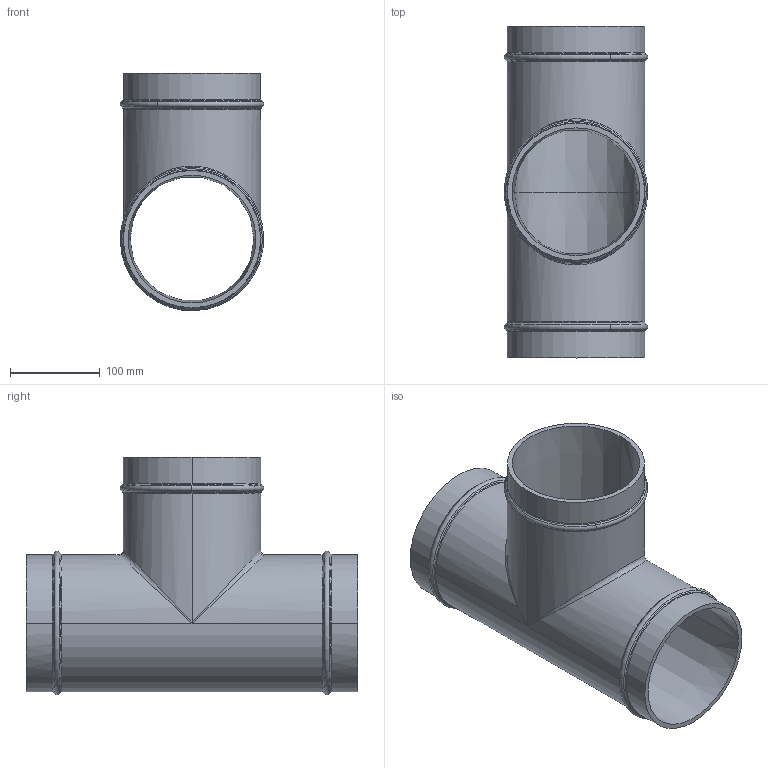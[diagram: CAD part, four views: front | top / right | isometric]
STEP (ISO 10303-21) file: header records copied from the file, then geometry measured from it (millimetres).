
FILE_DESCRIPTION(/* description */ (''),/* implementation_level */ '2;1');
FILE_NAME(/* name */ '9005_stp.stp',/* time_stamp */ '2025-06-20T11:35:20+08:00',/* author */ (''),/* organization */ (''),/* preprocessor_version */ 'ST-DEVELOPER v14',/* originating_system */ 'SIEMENS PLM Software NX 8.0',/* authorisation */ '');
FILE_SCHEMA (('AP203_CONFIGURATION_CONTROLLED_3D_DESIGN_OF_MECHANICAL_PARTS_AND_ASSEMBLIES_MIM_LF { 1 0 10303 403 2 1 2}'));
Length unit declared in the file: millimetre
Products named in the file (1): Admi0BECFFFE4xql
Bounding box: 160 x 370 x 264.98 mm (x, y, z)
Volume: 1372621.2 mm3; surface area: 437151.5 mm2
Topology: 1 solids, 1 shells, 58 faces, 131 edges, 70 vertices
Faces by surface type: cone 22, torus 20, cylinder 11, plane 3, bspline 2
Entity records: 2744 total; most frequent: CARTESIAN_POINT 1332, DIRECTION 322, ORIENTED_EDGE 254, AXIS2_PLACEMENT_3D 144, EDGE_CURVE 127, CIRCLE 87, VERTEX_POINT 70, EDGE_LOOP 61
